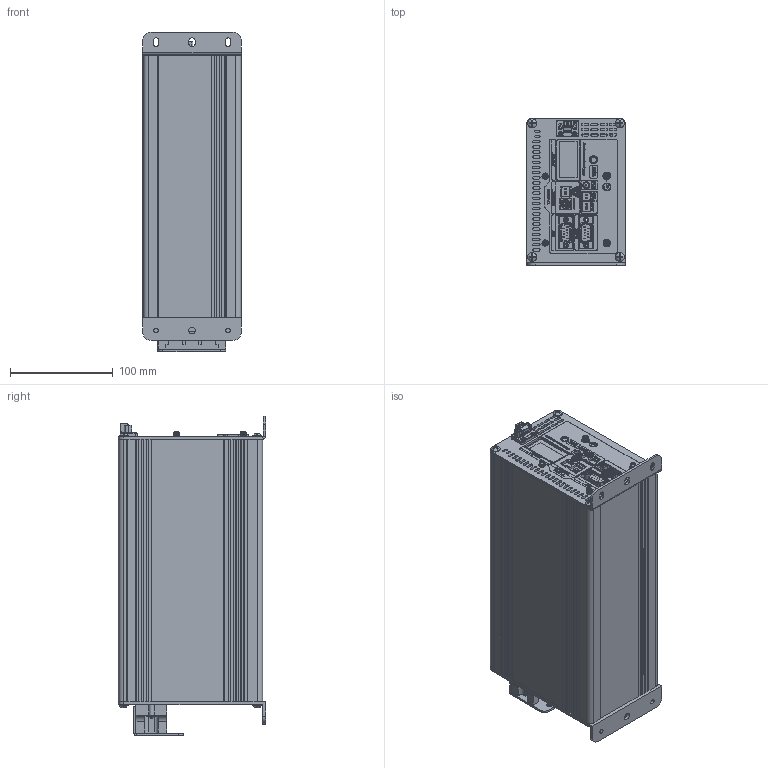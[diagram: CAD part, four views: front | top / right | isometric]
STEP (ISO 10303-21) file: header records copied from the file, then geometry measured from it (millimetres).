
FILE_DESCRIPTION(/* description */ (''),/* implementation_level */ '2;1');
FILE_NAME(/* name */ 'DV255COM_OLED_2026.07.07.STP',/* time_stamp */ '2026-07-07T11:49:58+09:00',/* author */ ('Administrator'),/* organization */ (''),/* preprocessor_version */ 'ST-DEVELOPER v20.1',/* originating_system */ 'Autodesk Inventor 2026',/* authorisation */ '');
FILE_SCHEMA (('AUTOMOTIVE_DESIGN { 1 0 10303 214 3 1 1 }'));
Products named in the file (1): DV255COM(장동국제작)_단순화_
2
Bounding box: 95.5 x 142.98 x 309.89 mm (x, y, z)
Volume: 542611.2 mm3; surface area: 391497.3 mm2
Topology: 9 solids, 9 shells, 5184 faces, 13814 edges, 9027 vertices
Faces by surface type: plane 2992, bspline 1073, cylinder 981, torus 106, sphere 21, cone 11
Full cylindrical faces by diameter (mm): 0.013 x9, 0.457 x2, 0.6 x3, 0.61 x27, 0.635 x9, 0.7 x18, 0.75 x18, 0.85 x3, 0.9 x20, 1 x5, 1.397 x9, 1.5 x4, 2.1 x4, 2.286 x9, 2.4 x2, 2.5 x4, 2.8 x10, 2.9 x2, 2.957 x8, 3 x4, 3.048 x4, 3.4 x5, 3.8 x10, 3.9 x2, 4 x15, 4.3 x4, 4.4 x2, 4.5 x10, 5 x8, 5.4 x4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
Entity records: 184027 total; most frequent: CARTESIAN_POINT 54421, ORIENTED_EDGE 27590, DIRECTION 22224, EDGE_CURVE 13795, VERTEX_POINT 9026, LINE 8832, VECTOR 8832, AXIS2_PLACEMENT_3D 6696
